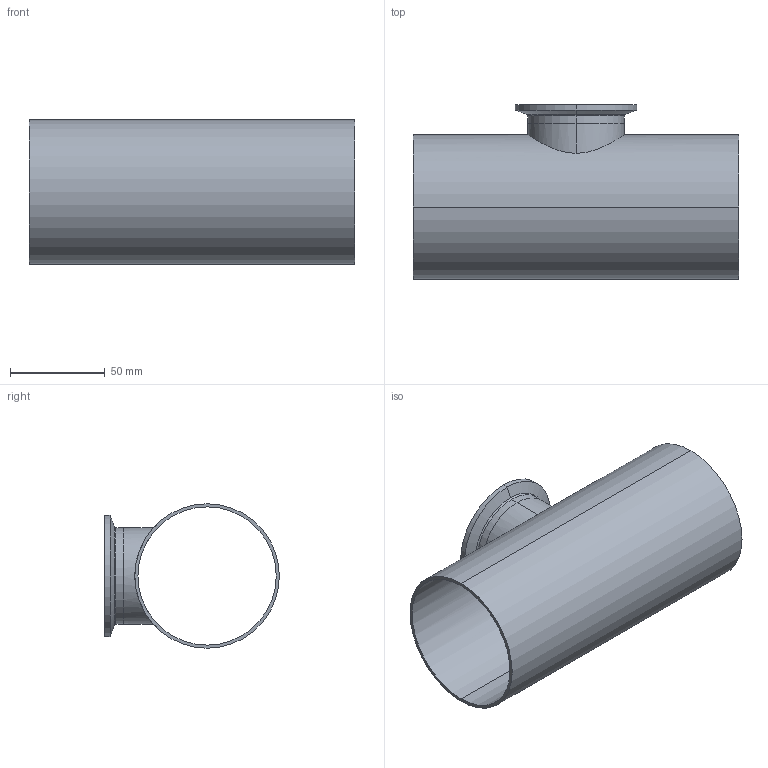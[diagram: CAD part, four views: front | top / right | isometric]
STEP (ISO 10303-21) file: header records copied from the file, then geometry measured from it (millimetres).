
FILE_DESCRIPTION (( 'STEP AP214' ), '1' );
FILE_NAME ('TE7RWWCS6L3.0x2.0-...STEP', '2016-05-23T12:20:22', ( 'eran' ), ( '' ), 'SwSTEP 2.0', 'SolidWorks 2016', '' );
FILE_SCHEMA (( 'AUTOMOTIVE_DESIGN' ));
Length unit declared in the file: millimetre
Products named in the file (1): TE7RWWCS6L3.0x2.0-..
Bounding box: 171.4 x 92.1 x 76.2 mm (x, y, z)
Volume: 72778.3 mm3; surface area: 86523.4 mm2
Topology: 2 solids, 2 shells, 36 faces, 88 edges, 58 vertices
Faces by surface type: cylinder 14, bspline 10, plane 6, cone 6
Entity records: 2046 total; most frequent: CARTESIAN_POINT 1141, DIRECTION 190, ORIENTED_EDGE 176, EDGE_CURVE 88, AXIS2_PLACEMENT_3D 85, VERTEX_POINT 58, CIRCLE 58, EDGE_LOOP 44
